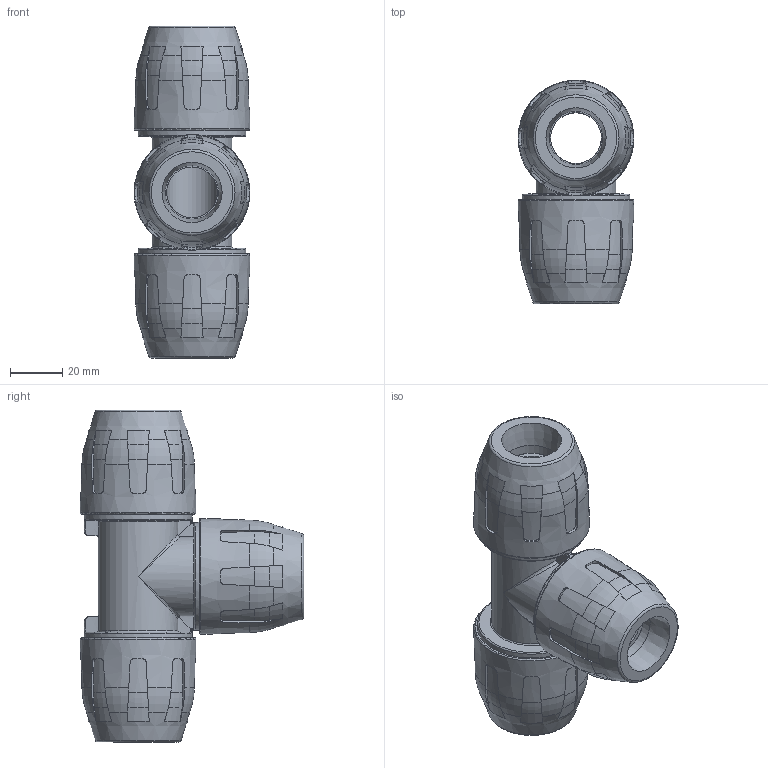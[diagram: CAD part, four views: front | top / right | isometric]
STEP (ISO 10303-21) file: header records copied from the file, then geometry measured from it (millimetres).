
FILE_DESCRIPTION( ( 'STEP AP214' ), '1' );
FILE_NAME( ' ', ' ', ( ' ' ), ( ' ' ), 'PSStep 11.0', 'VISI 17.0', ' ' );
FILE_SCHEMA( ( 'AUTOMOTIVE_DESIGN { 1 0 10303 214 1 1 1 1 }' ) );
Length unit declared in the file: millimetre
Products named in the file (4): 1; 2; 3; 4
Bounding box: 44.44 x 85.81 x 127.48 mm (x, y, z)
Volume: 147362 mm3; surface area: 87355.9 mm2
Topology: 4 solids, 5 shells, 776 faces, 2037 edges, 1300 vertices
Faces by surface type: plane 330, cone 213, bspline 114, cylinder 90, torus 29
Full cylindrical faces by diameter (mm): 19.5 x2, 20.6 x6, 32.2 x3, 32.232 x3, 32.3 x3, 33.9 x3, 36 x3, 36.739 x3, 36.8 x3, 37.435 x3, 41.439 x3, 42 x3
Entity records: 41239 total; most frequent: CARTESIAN_POINT 17549, ORIENTED_EDGE 3858, DIRECTION 3329, EDGE_CURVE 1929, AXIS2_PLACEMENT_3D 1454, VERTEX_POINT 1261, EDGE_LOOP 884, FACE_OUTER_BOUND 829
